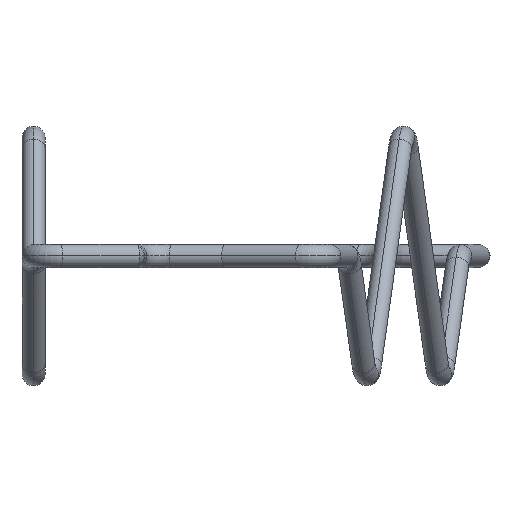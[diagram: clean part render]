
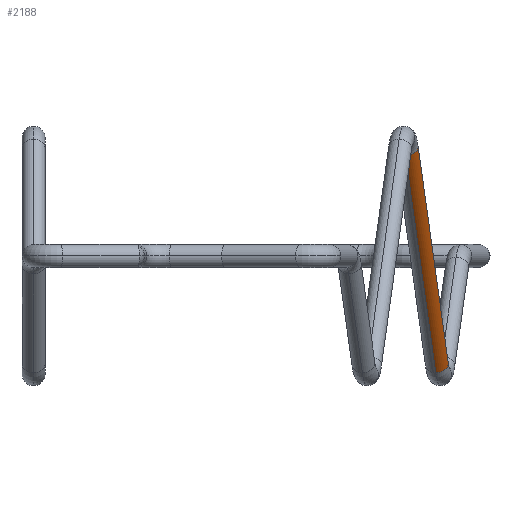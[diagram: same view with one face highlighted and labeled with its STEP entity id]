
A CAD part, left-side view. The second image highlights one B-rep face of the part: STEP entity #2188.
In plain terms, the highlighted cylindrical face has radius 0.35 mm (diameter 0.7 mm), a partial arc.
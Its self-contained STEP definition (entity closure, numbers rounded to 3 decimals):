
#14 = VERTEX_POINT ( 'NONE', #1790 ) ;
#21 = VERTEX_POINT ( 'NONE', #1627 ) ;
#101 = AXIS2_PLACEMENT_3D ( 'NONE', #858, #1724, #1587 ) ;
#141 = CIRCLE ( 'NONE', #101, 0.35 ) ;
#178 = AXIS2_PLACEMENT_3D ( 'NONE', #610, #2100, #271 ) ;
#191 = CYLINDRICAL_SURFACE ( 'NONE', #1590, 0.35 ) ;
#271 = DIRECTION ( 'NONE',  ( -0.7, 0.098, -0.707 ) ) ;
#331 = EDGE_CURVE ( 'NONE', #1589, #21, #141, .T. ) ;
#398 = CARTESIAN_POINT ( 'NONE',  ( 16.916, -11.32, 3.293 ) ) ;
#419 = EDGE_LOOP ( 'NONE', ( #2083, #867, #474, #1316 ) ) ;
#474 = ORIENTED_EDGE ( 'NONE', *, *, #1084, .T. ) ;
#558 = DIRECTION ( 'NONE',  ( 0.7, -0.098, -0.707 ) ) ;
#610 = CARTESIAN_POINT ( 'NONE',  ( 23.437, -12.236, -3.293 ) ) ;
#682 = CARTESIAN_POINT ( 'NONE',  ( 23.192, -12.202, -3.54 ) ) ;
#725 = VECTOR ( 'NONE', #2254, 1000. ) ;
#736 = CIRCLE ( 'NONE', #178, 0.35 ) ;
#858 = CARTESIAN_POINT ( 'NONE',  ( 16.916, -11.32, 3.293 ) ) ;
#867 = ORIENTED_EDGE ( 'NONE', *, *, #331, .F. ) ;
#968 = CARTESIAN_POINT ( 'NONE',  ( 16.67, -11.285, 3.045 ) ) ;
#1057 = CARTESIAN_POINT ( 'NONE',  ( 17.161, -11.354, 3.54 ) ) ;
#1084 = EDGE_CURVE ( 'NONE', #1589, #2018, #2055, .T. ) ;
#1114 = CARTESIAN_POINT ( 'NONE',  ( 16.67, -11.285, 3.045 ) ) ;
#1122 = DIRECTION ( 'NONE',  ( -0.7, 0.098, -0.707 ) ) ;
#1277 = FACE_OUTER_BOUND ( 'NONE', #419, .T. ) ;
#1316 = ORIENTED_EDGE ( 'NONE', *, *, #2258, .T. ) ;
#1397 = LINE ( 'NONE', #1057, #1880 ) ;
#1587 = DIRECTION ( 'NONE',  ( -0.7, 0.098, -0.707 ) ) ;
#1589 = VERTEX_POINT ( 'NONE', #968 ) ;
#1590 = AXIS2_PLACEMENT_3D ( 'NONE', #398, #558, #1122 ) ;
#1627 = CARTESIAN_POINT ( 'NONE',  ( 17.161, -11.354, 3.54 ) ) ;
#1724 = DIRECTION ( 'NONE',  ( -0.7, 0.098, 0.707 ) ) ;
#1790 = CARTESIAN_POINT ( 'NONE',  ( 23.682, -12.271, -3.045 ) ) ;
#1880 = VECTOR ( 'NONE', #2158, 1000. ) ;
#2018 = VERTEX_POINT ( 'NONE', #682 ) ;
#2034 = EDGE_CURVE ( 'NONE', #21, #14, #1397, .T. ) ;
#2055 = LINE ( 'NONE', #1114, #725 ) ;
#2083 = ORIENTED_EDGE ( 'NONE', *, *, #2034, .F. ) ;
#2100 = DIRECTION ( 'NONE',  ( -0.7, 0.098, 0.707 ) ) ;
#2158 = DIRECTION ( 'NONE',  ( 0.7, -0.098, -0.707 ) ) ;
#2188 = ADVANCED_FACE ( 'NONE', ( #1277 ), #191, .T. ) ;
#2254 = DIRECTION ( 'NONE',  ( 0.7, -0.098, -0.707 ) ) ;
#2258 = EDGE_CURVE ( 'NONE', #2018, #14, #736, .T. ) ;
